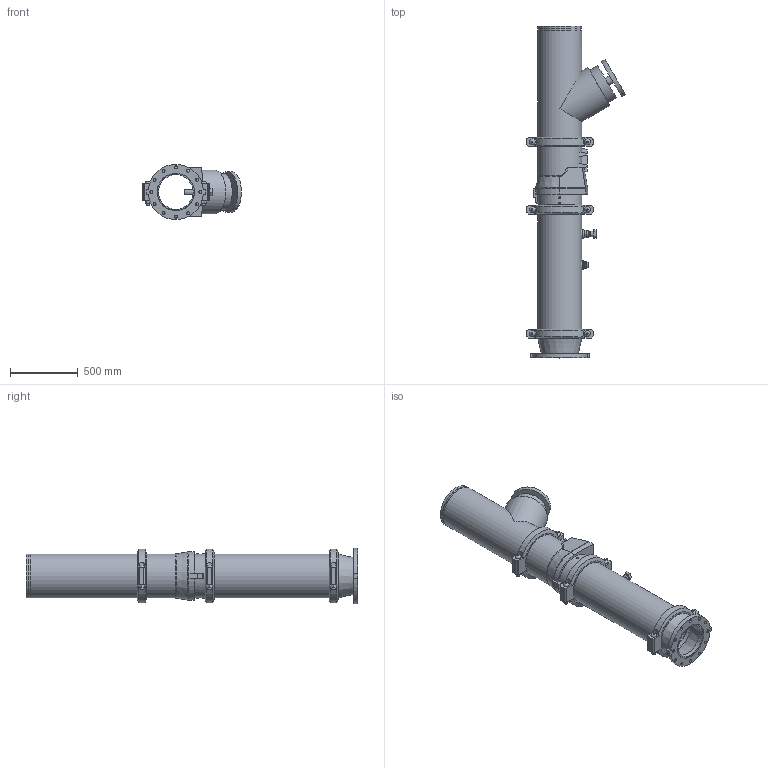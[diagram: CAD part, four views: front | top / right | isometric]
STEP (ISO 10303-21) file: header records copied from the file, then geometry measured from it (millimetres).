
FILE_DESCRIPTION(/* description */ ('VIC DVI PUMP DROP VERT S/383 (OGSxFLG) (S/924-1.25)','CAx-IF Rec.Pracs.---Representation and Presentation of Product Manufacturing Information (PMI)---4.0---2014-10-13'),/* implementation_level */ '2;1');
FILE_NAME(/* name */ 'C:\Users\Public\Documents\Victaulic.Temp\A849\Victaulic_IPS_Vertical DVI_CL 150_Series 383 (OGSxFLG)_924 (1.25)_12.0x10.0 (300x250).stp',/* time_stamp */ '2022-07-25T11:42:48+02:00',/* author */ ('Vjadhav'),/* organization */ ('Victaulic'),/* preprocessor_version */ 'ST-DEVELOPER v18',/* originating_system */ 'Autodesk Inventor 2020',/* authorisation */ '');
FILE_SCHEMA (('AP242_MANAGED_MODEL_BASED_3D_ENGINEERING_MIM_LF { 1 0 10303 442 1 1 4 }'));
Length unit declared in the file: inch
Products named in the file (9): 383_924 (1.25)-12.0x10.0; 741-10.0; 050-12.0x10.0; Pipe-12.0; 789-12.0; 779-12.0; 924-10.0x01.25; 923-10.0x0.75; 077-12.0
Assembly tree (10 placements, depth 2):
  383_924 (1.25)-12.0x10.0
    741-10.0
    050-12.0x10.0
    Pipe-12.0
    789-12.0
    779-12.0
    924-10.0x01.25
    923-10.0x0.75
    077-12.0  x3
Bounding box: 727.08 x 2443.23 x 406.4 mm (x, y, z)
Volume: 62335498.2 mm3; surface area: 6707474.9 mm2
Topology: 10 solids, 17 shells, 458 faces, 1140 edges, 781 vertices
Faces by surface type: plane 273, cylinder 152, cone 19, bspline 8, torus 6
Full cylindrical faces by diameter (mm): 13.716 x4, 21.336 x2, 22.225 x12, 25.4 x12, 26.67 x2, 27.432 x6, 38.608 x1, 42.164 x1, 45.974 x4, 48.514 x1, 55.626 x2, 60.96 x1, 76.2 x1, 254.508 x1, 268.275 x1, 273.05 x4, 299.974 x1, 303.225 x2, 304.8 x2, 314.96 x3, 318.287 x7, 323.85 x19
Entity records: 11464 total; most frequent: CARTESIAN_POINT 2196, DIRECTION 1898, ORIENTED_EDGE 1700, EDGE_CURVE 850, AXIS2_PLACEMENT_3D 727, VERTEX_POINT 585, LINE 444, VECTOR 444
